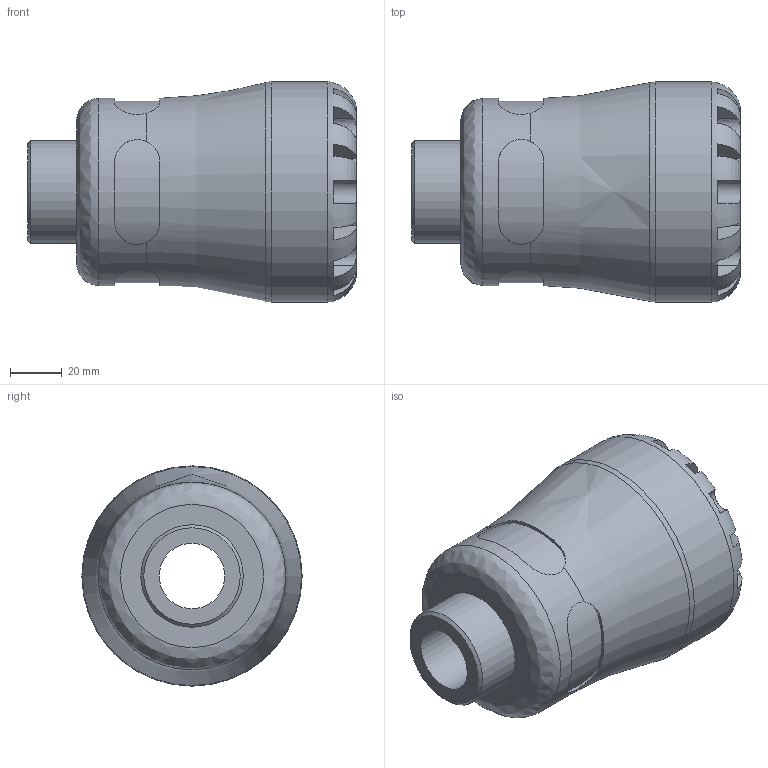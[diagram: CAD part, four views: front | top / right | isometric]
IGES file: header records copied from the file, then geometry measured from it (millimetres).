
Global section: file name: 107200050013_197200050013.ipt; native system: Autodesk Inventor 2015; preprocessor: unknown; author: KIM; date: 20170122.104943; units: millimetre
Bounding box: 127 x 85 x 85 mm (x, y, z)
Volume: 341593.3 mm3; surface area: 54619.6 mm2
Topology: 1 solids, 1 shells, 99 faces, 264 edges, 169 vertices
Faces by surface type: plane 60, revolution 23, cylinder 15, cone 1
Full cylindrical faces by diameter (mm): 39.592 x1, 72.25 x1, 85 x1
